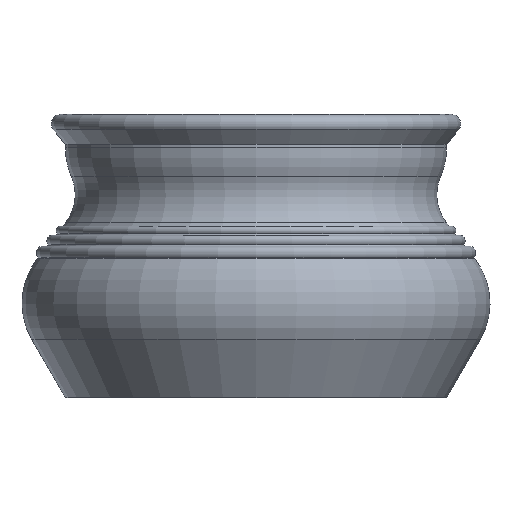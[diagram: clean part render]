
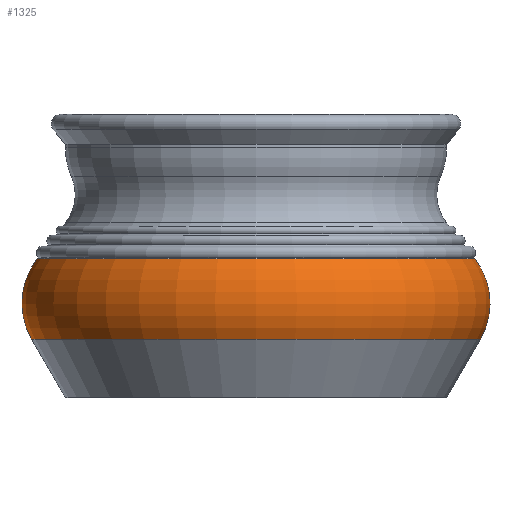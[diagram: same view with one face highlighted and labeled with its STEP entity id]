
A CAD part, front view. The second image highlights one B-rep face of the part: STEP entity #1325.
In plain terms, the highlighted toroidal (fillet/blend) face has major radius 85.901 mm and minor radius 38.099 mm.
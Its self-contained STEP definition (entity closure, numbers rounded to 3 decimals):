
#22=TOROIDAL_SURFACE('',#1505,85.901,38.099);
#166=FACE_OUTER_BOUND('',#284,.T.);
#284=EDGE_LOOP('',(#1208,#1209,#1210,#1211));
#526=CIRCLE('',#1467,118.883);
#549=CIRCLE('',#1506,115.889);
#550=CIRCLE('',#1507,38.099);
#653=VERTEX_POINT('',#2240);
#669=VERTEX_POINT('',#2303);
#818=EDGE_CURVE('',#653,#653,#526,.T.);
#849=EDGE_CURVE('',#669,#669,#549,.T.);
#850=EDGE_CURVE('',#669,#653,#550,.T.);
#1208=ORIENTED_EDGE('',*,*,#849,.F.);
#1209=ORIENTED_EDGE('',*,*,#850,.T.);
#1210=ORIENTED_EDGE('',*,*,#818,.T.);
#1211=ORIENTED_EDGE('',*,*,#850,.F.);
#1325=ADVANCED_FACE('',(#166),#22,.T.);
#1467=AXIS2_PLACEMENT_3D('',#2241,#1837,#1838);
#1505=AXIS2_PLACEMENT_3D('',#2302,#1921,#1922);
#1506=AXIS2_PLACEMENT_3D('',#2304,#1923,#1924);
#1507=AXIS2_PLACEMENT_3D('',#2305,#1925,#1926);
#1837=DIRECTION('center_axis',(0.,0.,1.));
#1838=DIRECTION('ref_axis',(1.,0.,0.));
#1921=DIRECTION('center_axis',(0.,0.,1.));
#1922=DIRECTION('ref_axis',(1.,0.,0.));
#1923=DIRECTION('center_axis',(0.,0.,1.));
#1924=DIRECTION('ref_axis',(1.,0.,0.));
#1925=DIRECTION('center_axis',(0.,-1.,0.));
#1926=DIRECTION('ref_axis',(-1.,0.,0.));
#2240=CARTESIAN_POINT('',(-118.883,0.,30.929));
#2241=CARTESIAN_POINT('Origin',(0.,0.,30.929));
#2302=CARTESIAN_POINT('Origin',(0.,0.,50.));
#2303=CARTESIAN_POINT('',(-115.889,0.,73.5));
#2304=CARTESIAN_POINT('Origin',(0.,0.,73.5));
#2305=CARTESIAN_POINT('Origin',(-85.901,0.,
50.));
